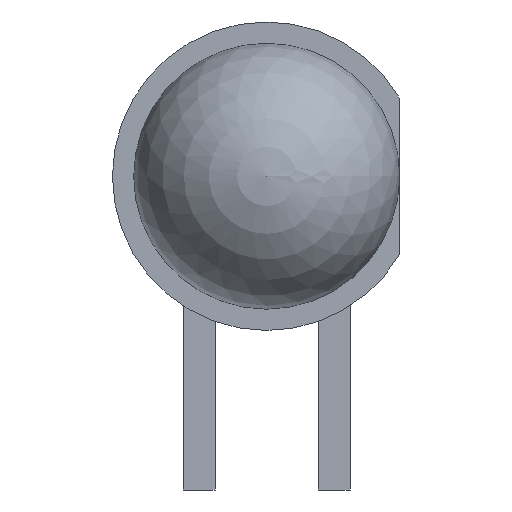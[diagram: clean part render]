
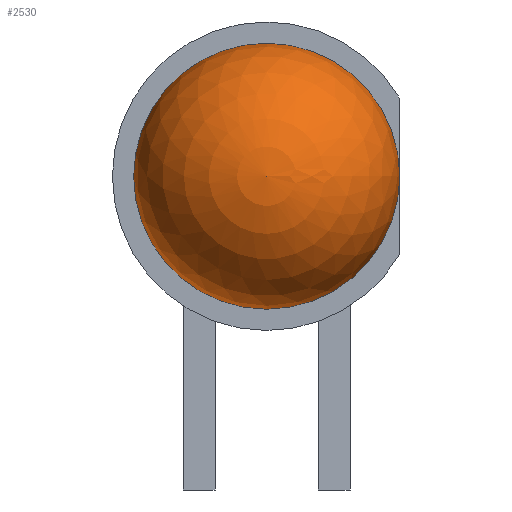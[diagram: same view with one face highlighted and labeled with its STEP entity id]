
A CAD part, front view. The second image highlights one B-rep face of the part: STEP entity #2530.
In plain terms, the highlighted spherical face has radius 2.5 mm.
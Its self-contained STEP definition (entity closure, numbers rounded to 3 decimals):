
#2464 = CYLINDRICAL_SURFACE('',#2465,2.5);
#2465 = AXIS2_PLACEMENT_3D('',#2466,#2467,#2468);
#2466 = CARTESIAN_POINT('',(0.,-6.,2.925));
#2467 = DIRECTION('',(-0.,1.,0.));
#2468 = DIRECTION('',(1.,0.,0.));
#2479 = EDGE_CURVE('',#2480,#2480,#2482,.T.);
#2480 = VERTEX_POINT('',#2481);
#2481 = CARTESIAN_POINT('',(2.5,-11.2,2.925));
#2482 = SURFACE_CURVE('',#2483,(#2488,#2495),.PCURVE_S1.);
#2483 = CIRCLE('',#2484,2.5);
#2484 = AXIS2_PLACEMENT_3D('',#2485,#2486,#2487);
#2485 = CARTESIAN_POINT('',(0.,-11.2,2.925));
#2486 = DIRECTION('',(0.,-1.,0.));
#2487 = DIRECTION('',(1.,0.,0.));
#2488 = PCURVE('',#2464,#2489);
#2489 = DEFINITIONAL_REPRESENTATION('',(#2490),#2494);
#2490 = LINE('',#2491,#2492);
#2491 = CARTESIAN_POINT('',(-0.,-5.2));
#2492 = VECTOR('',#2493,1.);
#2493 = DIRECTION('',(-1.,0.));
#2494 = ( GEOMETRIC_REPRESENTATION_CONTEXT(2) 
PARAMETRIC_REPRESENTATION_CONTEXT() REPRESENTATION_CONTEXT('2D SPACE',''
  ) );
#2495 = PCURVE('',#2496,#2501);
#2496 = SPHERICAL_SURFACE('',#2497,2.5);
#2497 = AXIS2_PLACEMENT_3D('',#2498,#2499,#2500);
#2498 = CARTESIAN_POINT('',(0.,-11.2,2.925));
#2499 = DIRECTION('',(0.,-1.,0.));
#2500 = DIRECTION('',(1.,0.,0.));
#2501 = DEFINITIONAL_REPRESENTATION('',(#2502),#2506);
#2502 = LINE('',#2503,#2504);
#2503 = CARTESIAN_POINT('',(0.,0.));
#2504 = VECTOR('',#2505,1.);
#2505 = DIRECTION('',(1.,0.));
#2506 = ( GEOMETRIC_REPRESENTATION_CONTEXT(2) 
PARAMETRIC_REPRESENTATION_CONTEXT() REPRESENTATION_CONTEXT('2D SPACE',''
  ) );
#2530 = ADVANCED_FACE('',(#2531),#2496,.T.);
#2531 = FACE_BOUND('',#2532,.T.);
#2532 = EDGE_LOOP('',(#2533,#2555,#2556));
#2533 = ORIENTED_EDGE('',*,*,#2534,.F.);
#2534 = EDGE_CURVE('',#2480,#2535,#2537,.T.);
#2535 = VERTEX_POINT('',#2536);
#2536 = CARTESIAN_POINT('',(0.,-13.7,2.925));
#2537 = SEAM_CURVE('',#2538,(#2543,#2549),.PCURVE_S1.);
#2538 = CIRCLE('',#2539,2.5);
#2539 = AXIS2_PLACEMENT_3D('',#2540,#2541,#2542);
#2540 = CARTESIAN_POINT('',(0.,-11.2,2.925));
#2541 = DIRECTION('',(0.,0.,-1.));
#2542 = DIRECTION('',(1.,0.,0.));
#2543 = PCURVE('',#2496,#2544);
#2544 = DEFINITIONAL_REPRESENTATION('',(#2545),#2548);
#2545 = B_SPLINE_CURVE_WITH_KNOTS('',1,(#2546,#2547),.UNSPECIFIED.,.F.,
  .F.,(2,2),(0.,1.571),.PIECEWISE_BEZIER_KNOTS.);
#2546 = CARTESIAN_POINT('',(0.,0.));
#2547 = CARTESIAN_POINT('',(0.,1.571));
#2548 = ( GEOMETRIC_REPRESENTATION_CONTEXT(2) 
PARAMETRIC_REPRESENTATION_CONTEXT() REPRESENTATION_CONTEXT('2D SPACE',''
  ) );
#2549 = PCURVE('',#2496,#2550);
#2550 = DEFINITIONAL_REPRESENTATION('',(#2551),#2554);
#2551 = B_SPLINE_CURVE_WITH_KNOTS('',1,(#2552,#2553),.UNSPECIFIED.,.F.,
  .F.,(2,2),(0.,1.571),.PIECEWISE_BEZIER_KNOTS.);
#2552 = CARTESIAN_POINT('',(6.283,0.));
#2553 = CARTESIAN_POINT('',(6.283,1.571));
#2554 = ( GEOMETRIC_REPRESENTATION_CONTEXT(2) 
PARAMETRIC_REPRESENTATION_CONTEXT() REPRESENTATION_CONTEXT('2D SPACE',''
  ) );
#2555 = ORIENTED_EDGE('',*,*,#2479,.T.);
#2556 = ORIENTED_EDGE('',*,*,#2534,.T.);
